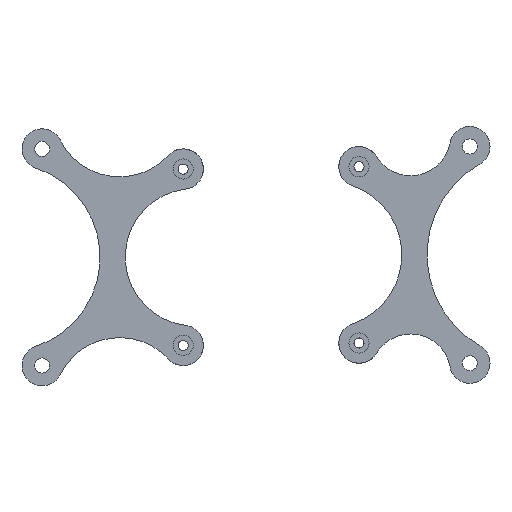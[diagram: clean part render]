
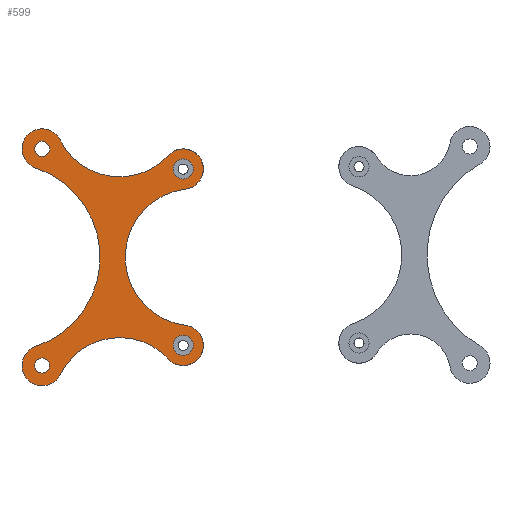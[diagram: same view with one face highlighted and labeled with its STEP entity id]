
A CAD part, front view. The second image highlights one B-rep face of the part: STEP entity #599.
In plain terms, the highlighted planar face has unit normal (0, -1, 0).
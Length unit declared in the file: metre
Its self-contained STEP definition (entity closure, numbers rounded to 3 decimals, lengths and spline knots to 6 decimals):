
#47=PLANE('',#690);
#110=ORIENTED_EDGE('',*,*,#244,.F.);
#111=ORIENTED_EDGE('',*,*,#245,.F.);
#112=ORIENTED_EDGE('',*,*,#224,.T.);
#113=ORIENTED_EDGE('',*,*,#241,.T.);
#114=ORIENTED_EDGE('',*,*,#238,.T.);
#115=ORIENTED_EDGE('',*,*,#235,.F.);
#116=ORIENTED_EDGE('',*,*,#233,.F.);
#117=ORIENTED_EDGE('',*,*,#231,.F.);
#118=ORIENTED_EDGE('',*,*,#229,.T.);
#119=ORIENTED_EDGE('',*,*,#227,.T.);
#120=ORIENTED_EDGE('',*,*,#240,.F.);
#121=ORIENTED_EDGE('',*,*,#243,.T.);
#224=EDGE_CURVE('',#300,#301,#360,.T.);
#227=EDGE_CURVE('',#302,#300,#361,.T.);
#229=EDGE_CURVE('',#303,#302,#362,.T.);
#231=EDGE_CURVE('',#303,#304,#363,.T.);
#233=EDGE_CURVE('',#304,#305,#364,.T.);
#235=EDGE_CURVE('',#305,#306,#365,.T.);
#238=EDGE_CURVE('',#308,#306,#367,.T.);
#240=EDGE_CURVE('',#309,#309,#368,.T.);
#241=EDGE_CURVE('',#301,#308,#369,.T.);
#243=EDGE_CURVE('',#311,#311,#371,.T.);
#244=EDGE_CURVE('',#312,#312,#372,.T.);
#245=EDGE_CURVE('',#313,#313,#373,.T.);
#300=VERTEX_POINT('',#1006);
#301=VERTEX_POINT('',#1007);
#302=VERTEX_POINT('',#1012);
#303=VERTEX_POINT('',#1016);
#304=VERTEX_POINT('',#1020);
#305=VERTEX_POINT('',#1024);
#306=VERTEX_POINT('',#1028);
#308=VERTEX_POINT('',#1034);
#309=VERTEX_POINT('',#1038);
#311=VERTEX_POINT('',#1045);
#312=VERTEX_POINT('',#1048);
#313=VERTEX_POINT('',#1050);
#360=CIRCLE('',#669,0.013157);
#361=CIRCLE('',#671,0.004);
#362=CIRCLE('',#673,0.018661);
#363=CIRCLE('',#675,0.004);
#364=CIRCLE('',#677,0.013157);
#365=CIRCLE('',#679,0.004);
#367=CIRCLE('',#682,0.013629);
#368=CIRCLE('',#684,0.0015);
#369=CIRCLE('',#686,0.004);
#371=CIRCLE('',#689,0.0015);
#372=CIRCLE('',#691,0.002);
#373=CIRCLE('',#692,0.002);
#427=EDGE_LOOP('',(#110));
#428=EDGE_LOOP('',(#111));
#429=EDGE_LOOP('',(#112,#113,#114,#115,#116,#117,#118,#119));
#430=EDGE_LOOP('',(#120));
#431=EDGE_LOOP('',(#121));
#503=FACE_BOUND('',#427,.T.);
#504=FACE_BOUND('',#428,.T.);
#505=FACE_BOUND('',#429,.T.);
#506=FACE_BOUND('',#430,.T.);
#507=FACE_BOUND('',#431,.T.);
#599=ADVANCED_FACE('',(#503,#504,#505,#506,#507),#47,.F.);
#669=AXIS2_PLACEMENT_3D('',#1005,#790,#791);
#671=AXIS2_PLACEMENT_3D('',#1011,#796,#797);
#673=AXIS2_PLACEMENT_3D('',#1015,#801,#802);
#675=AXIS2_PLACEMENT_3D('',#1019,#806,#807);
#677=AXIS2_PLACEMENT_3D('',#1023,#811,#812);
#679=AXIS2_PLACEMENT_3D('',#1027,#816,#817);
#682=AXIS2_PLACEMENT_3D('',#1033,#823,#824);
#684=AXIS2_PLACEMENT_3D('',#1037,#828,#829);
#686=AXIS2_PLACEMENT_3D('',#1040,#832,#833);
#689=AXIS2_PLACEMENT_3D('',#1044,#838,#839);
#690=AXIS2_PLACEMENT_3D('',#1046,#840,#841);
#691=AXIS2_PLACEMENT_3D('',#1047,#842,#843);
#692=AXIS2_PLACEMENT_3D('',#1049,#844,#845);
#790=DIRECTION('',(0.,1.,0.));
#791=DIRECTION('',(1.,0.,0.));
#796=DIRECTION('',(0.,-1.,0.));
#797=DIRECTION('',(1.,0.,0.));
#801=DIRECTION('',(0.,1.,0.));
#802=DIRECTION('',(1.,0.,0.));
#806=DIRECTION('',(0.,1.,0.));
#807=DIRECTION('',(1.,0.,0.));
#811=DIRECTION('',(0.,-1.,0.));
#812=DIRECTION('',(1.,0.,0.));
#816=DIRECTION('',(0.,1.,0.));
#817=DIRECTION('',(1.,0.,0.));
#823=DIRECTION('',(0.,1.,0.));
#824=DIRECTION('',(1.,0.,0.));
#828=DIRECTION('',(0.,-1.,0.));
#829=DIRECTION('',(1.,0.,0.));
#832=DIRECTION('',(0.,-1.,0.));
#833=DIRECTION('',(1.,0.,0.));
#838=DIRECTION('',(0.,1.,0.));
#839=DIRECTION('',(1.,0.,0.));
#840=DIRECTION('',(0.,1.,0.));
#841=DIRECTION('',(1.,0.,0.));
#842=DIRECTION('',(0.,-1.,0.));
#843=DIRECTION('',(-1.,0.,0.));
#844=DIRECTION('',(0.,-1.,0.));
#845=DIRECTION('',(-1.,0.,0.));
#1005=CARTESIAN_POINT('',(0.001374,0.,-0.029116));
#1006=CARTESIAN_POINT('',(-0.010416,0.,-0.023276));
#1007=CARTESIAN_POINT('',(0.011056,0.,-0.020208));
#1011=CARTESIAN_POINT('',(-0.014,0.,-0.0215));
#1012=CARTESIAN_POINT('',(-0.015264,0.,-0.017705));
#1015=CARTESIAN_POINT('',(-0.021161,0.,0.));
#1016=CARTESIAN_POINT('',(-0.015264,0.,0.017705));
#1019=CARTESIAN_POINT('',(-0.014,0.,0.0215));
#1020=CARTESIAN_POINT('',(-0.010416,0.,0.023276));
#1023=CARTESIAN_POINT('',(0.001374,0.,0.029116));
#1024=CARTESIAN_POINT('',(0.011056,0.,0.020208));
#1027=CARTESIAN_POINT('',(0.014,0.,0.0175));
#1028=CARTESIAN_POINT('',(0.014483,0.,0.013529));
#1033=CARTESIAN_POINT('',(0.016129,0.,0.));
#1034=CARTESIAN_POINT('',(0.014483,0.,-0.013529));
#1037=CARTESIAN_POINT('',(-0.014,0.,0.0215));
#1038=CARTESIAN_POINT('',(-0.0125,0.,0.0215));
#1040=CARTESIAN_POINT('',(0.014,0.,-0.0175));
#1044=CARTESIAN_POINT('',(-0.014,0.,-0.0215));
#1045=CARTESIAN_POINT('',(-0.0125,0.,-0.0215));
#1046=CARTESIAN_POINT('',(0.061537,0.,-0.001146));
#1047=CARTESIAN_POINT('',(0.014,0.,0.0175));
#1048=CARTESIAN_POINT('',(0.012,0.,0.0175));
#1049=CARTESIAN_POINT('',(0.014,0.,-0.0175));
#1050=CARTESIAN_POINT('',(0.012,0.,-0.0175));
